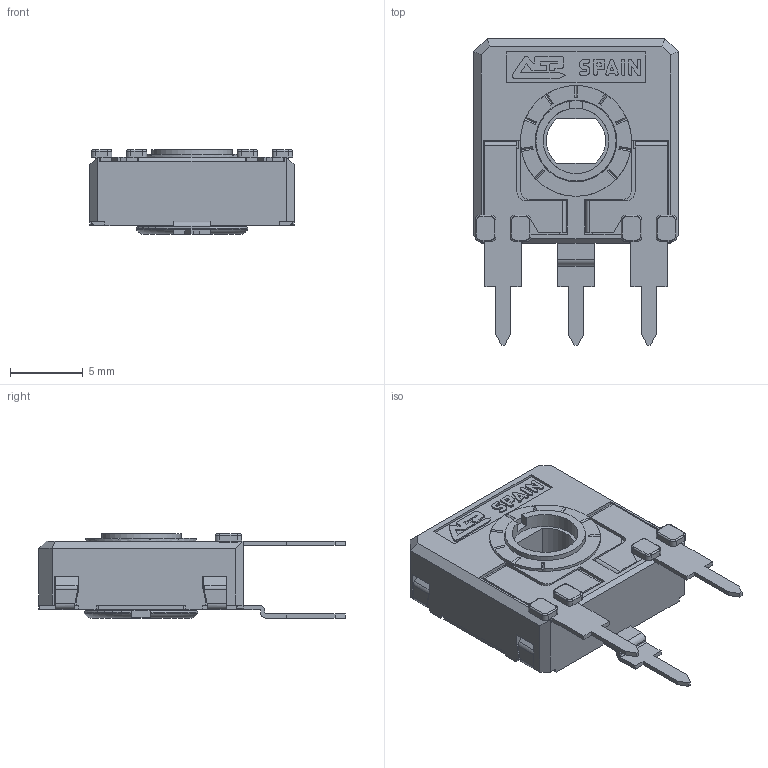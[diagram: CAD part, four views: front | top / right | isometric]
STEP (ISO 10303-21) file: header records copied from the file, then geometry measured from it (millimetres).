
FILE_DESCRIPTION(/* description */ (''),/* implementation_level */ '2;1');
FILE_NAME(/* name */ '\\SERVERACP\intercambio\Ignacio Santa Cecilia\Nueva WEB 2025\CA14 - CE14\CA14NH5.stp',/* time_stamp */ '2025-06-06T09:11:37+02:00',/* author */ ('CEM'),/* organization */ (''),/* preprocessor_version */ 'ST-DEVELOPER v17',/* originating_system */ 'Autodesk Inventor 2018',/* authorisation */ '');
FILE_SCHEMA (('AUTOMOTIVE_DESIGN { 1 0 10303 214 3 1 1 }'));
Length unit declared in the file: millimetre
Products named in the file (1): CARCASA CA14 PGA
Bounding box: 14 x 21 x 5.8 mm (x, y, z)
Volume: 531.4 mm3; surface area: 1453.8 mm2
Topology: 1 solids, 1 shells, 666 faces, 1881 edges, 1211 vertices
Faces by surface type: plane 494, cylinder 135, torus 23, bspline 8, cone 6
Full cylindrical faces by diameter (mm): 4.5 x1, 5.5 x1, 5.6 x1, 5.752 x1, 6.8 x1, 7.6 x1
Entity records: 21747 total; most frequent: CARTESIAN_POINT 4056, ORIENTED_EDGE 3762, DIRECTION 3509, EDGE_CURVE 1881, LINE 1481, VECTOR 1481, VERTEX_POINT 1211, AXIS2_PLACEMENT_3D 1014
